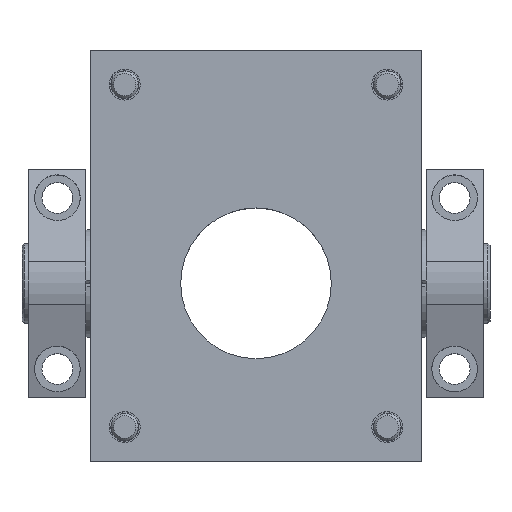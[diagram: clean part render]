
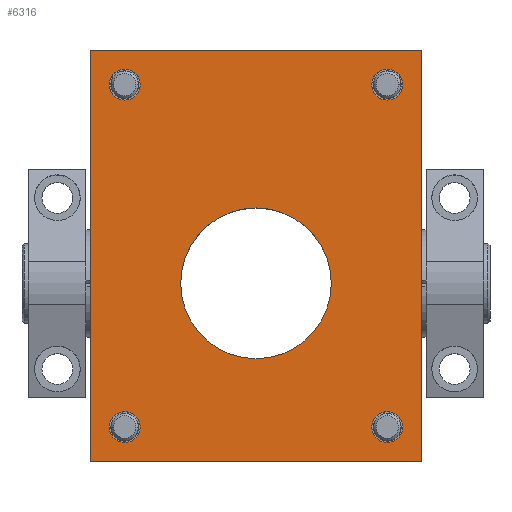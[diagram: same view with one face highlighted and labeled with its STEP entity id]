
A CAD part, top view. The second image highlights one B-rep face of the part: STEP entity #6316.
In plain terms, the highlighted planar face has unit normal (0, 0, 1).
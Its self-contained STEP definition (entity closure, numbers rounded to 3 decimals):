
#40 = CARTESIAN_POINT ( 'NONE',  ( 72.5, -78., -49.5 ) ) ;
#84 = DIRECTION ( 'NONE',  ( 0., 0., -1. ) ) ;
#94 = DIRECTION ( 'NONE',  ( 0., 1., 0. ) ) ;
#119 = EDGE_CURVE ( 'NONE', #1418, #5590, #2246, .T. ) ;
#144 = CARTESIAN_POINT ( 'NONE',  ( -57.5, -63., -49.5 ) ) ;
#165 = CARTESIAN_POINT ( 'NONE',  ( -72.5, 102., -49.5 ) ) ;
#195 = CARTESIAN_POINT ( 'NONE',  ( -57.5, -69.75, -49.5 ) ) ;
#223 = CARTESIAN_POINT ( 'NONE',  ( 72.5, 102., -49.5 ) ) ;
#229 = ORIENTED_EDGE ( 'NONE', *, *, #1915, .F. ) ;
#330 = ORIENTED_EDGE ( 'NONE', *, *, #1268, .T. ) ;
#356 = VERTEX_POINT ( 'NONE', #1001 ) ;
#587 = CIRCLE ( 'NONE', #3054, 6.75 ) ;
#590 = FACE_OUTER_BOUND ( 'NONE', #3467, .T. ) ;
#701 = VERTEX_POINT ( 'NONE', #4704 ) ;
#702 = EDGE_CURVE ( 'NONE', #1250, #5243, #4400, .T. ) ;
#739 = CARTESIAN_POINT ( 'NONE',  ( -72.5, -78., -49.5 ) ) ;
#830 = CARTESIAN_POINT ( 'NONE',  ( 57.5, 93.75, -49.5 ) ) ;
#883 = CIRCLE ( 'NONE', #4195, 6.75 ) ;
#916 = DIRECTION ( 'NONE',  ( 0., 0., -1. ) ) ;
#931 = ORIENTED_EDGE ( 'NONE', *, *, #119, .F. ) ;
#1001 = CARTESIAN_POINT ( 'NONE',  ( 57.5, -56.25, -49.5 ) ) ;
#1007 = CIRCLE ( 'NONE', #5391, 6.75 ) ;
#1089 = EDGE_CURVE ( 'NONE', #5590, #5070, #1168, .T. ) ;
#1163 = EDGE_CURVE ( 'NONE', #4902, #5089, #6229, .T. ) ;
#1168 = LINE ( 'NONE', #165, #2278 ) ;
#1206 = VECTOR ( 'NONE', #5058, 1000. ) ;
#1250 = VERTEX_POINT ( 'NONE', #195 ) ;
#1268 = EDGE_CURVE ( 'NONE', #5089, #4902, #5484, .T. ) ;
#1272 = ORIENTED_EDGE ( 'NONE', *, *, #1680, .T. ) ;
#1363 = ORIENTED_EDGE ( 'NONE', *, *, #5066, .T. ) ;
#1418 = VERTEX_POINT ( 'NONE', #40 ) ;
#1467 = LINE ( 'NONE', #5121, #1206 ) ;
#1518 = AXIS2_PLACEMENT_3D ( 'NONE', #4128, #2006, #5676 ) ;
#1522 = CARTESIAN_POINT ( 'NONE',  ( -57.5, 93.75, -49.5 ) ) ;
#1524 = AXIS2_PLACEMENT_3D ( 'NONE', #2702, #3621, #6208 ) ;
#1555 = DIRECTION ( 'NONE',  ( 0., 1., 0. ) ) ;
#1569 = CARTESIAN_POINT ( 'NONE',  ( 0., 33., -49.5 ) ) ;
#1597 = FACE_BOUND ( 'NONE', #2815, .T. ) ;
#1680 = EDGE_CURVE ( 'NONE', #6254, #5891, #2494, .T. ) ;
#1684 = CARTESIAN_POINT ( 'NONE',  ( 57.5, -69.75, -49.5 ) ) ;
#1693 = CARTESIAN_POINT ( 'NONE',  ( -72.5, 102., -49.5 ) ) ;
#1718 = EDGE_CURVE ( 'NONE', #701, #3761, #883, .T. ) ;
#1721 = EDGE_LOOP ( 'NONE', ( #2116, #330 ) ) ;
#1739 = CARTESIAN_POINT ( 'NONE',  ( 57.5, 87., -49.5 ) ) ;
#1835 = CIRCLE ( 'NONE', #1518, 6.75 ) ;
#1870 = CARTESIAN_POINT ( 'NONE',  ( -57.5, 87., -49.5 ) ) ;
#1915 = EDGE_CURVE ( 'NONE', #2664, #1418, #1467, .T. ) ;
#2006 = DIRECTION ( 'NONE',  ( 0., 0., -1. ) ) ;
#2116 = ORIENTED_EDGE ( 'NONE', *, *, #1163, .T. ) ;
#2246 = LINE ( 'NONE', #6268, #4937 ) ;
#2278 = VECTOR ( 'NONE', #94, 1000. ) ;
#2474 = CARTESIAN_POINT ( 'NONE',  ( 72.5, 102., -49.5 ) ) ;
#2494 = CIRCLE ( 'NONE', #2610, 6.75 ) ;
#2547 = ORIENTED_EDGE ( 'NONE', *, *, #1718, .T. ) ;
#2605 = AXIS2_PLACEMENT_3D ( 'NONE', #2821, #4899, #4868 ) ;
#2610 = AXIS2_PLACEMENT_3D ( 'NONE', #1739, #84, #4818 ) ;
#2611 = FACE_BOUND ( 'NONE', #5069, .T. ) ;
#2648 = DIRECTION ( 'NONE',  ( 0., 0., 1. ) ) ;
#2664 = VERTEX_POINT ( 'NONE', #2474 ) ;
#2702 = CARTESIAN_POINT ( 'NONE',  ( -57.5, -63., -49.5 ) ) ;
#2815 = EDGE_LOOP ( 'NONE', ( #6359, #1272 ) ) ;
#2821 = CARTESIAN_POINT ( 'NONE',  ( 0., 0., -49.5 ) ) ;
#2859 = EDGE_LOOP ( 'NONE', ( #5662, #6381 ) ) ;
#2908 = DIRECTION ( 'NONE',  ( 0., 1., 0. ) ) ;
#3054 = AXIS2_PLACEMENT_3D ( 'NONE', #6372, #3856, #4329 ) ;
#3107 = FACE_BOUND ( 'NONE', #3646, .T. ) ;
#3150 = AXIS2_PLACEMENT_3D ( 'NONE', #5719, #2648, #4684 ) ;
#3161 = AXIS2_PLACEMENT_3D ( 'NONE', #5508, #916, #4978 ) ;
#3184 = EDGE_CURVE ( 'NONE', #5070, #2664, #3339, .T. ) ;
#3217 = CARTESIAN_POINT ( 'NONE',  ( 0., 0., -49.5 ) ) ;
#3268 = CARTESIAN_POINT ( 'NONE',  ( 0., -33., -49.5 ) ) ;
#3339 = LINE ( 'NONE', #223, #4151 ) ;
#3349 = DIRECTION ( 'NONE',  ( 0., 1., 0. ) ) ;
#3467 = EDGE_LOOP ( 'NONE', ( #3841, #3532, #931, #229 ) ) ;
#3532 = ORIENTED_EDGE ( 'NONE', *, *, #1089, .F. ) ;
#3621 = DIRECTION ( 'NONE',  ( 0., 0., -1. ) ) ;
#3630 = CARTESIAN_POINT ( 'NONE',  ( 57.5, 80.25, -49.5 ) ) ;
#3646 = EDGE_LOOP ( 'NONE', ( #5631, #2547 ) ) ;
#3667 = PLANE ( 'NONE',  #3150 ) ;
#3761 = VERTEX_POINT ( 'NONE', #1522 ) ;
#3833 = DIRECTION ( 'NONE',  ( 0., 0., -1. ) ) ;
#3839 = DIRECTION ( 'NONE',  ( -1., 0., 0. ) ) ;
#3841 = ORIENTED_EDGE ( 'NONE', *, *, #3184, .F. ) ;
#3856 = DIRECTION ( 'NONE',  ( 0., 0., -1. ) ) ;
#3895 = ORIENTED_EDGE ( 'NONE', *, *, #702, .T. ) ;
#4083 = DIRECTION ( 'NONE',  ( 0., 0., -1. ) ) ;
#4128 = CARTESIAN_POINT ( 'NONE',  ( 57.5, -63., -49.5 ) ) ;
#4131 = FACE_BOUND ( 'NONE', #2859, .T. ) ;
#4151 = VECTOR ( 'NONE', #4307, 1000. ) ;
#4195 = AXIS2_PLACEMENT_3D ( 'NONE', #1870, #3833, #2908 ) ;
#4231 = DIRECTION ( 'NONE',  ( 0., 1., 0. ) ) ;
#4307 = DIRECTION ( 'NONE',  ( 1., 0., 0. ) ) ;
#4329 = DIRECTION ( 'NONE',  ( 0., 1., 0. ) ) ;
#4400 = CIRCLE ( 'NONE', #1524, 6.75 ) ;
#4420 = CARTESIAN_POINT ( 'NONE',  ( -57.5, 87., -49.5 ) ) ;
#4684 = DIRECTION ( 'NONE',  ( 0., -1., 0. ) ) ;
#4704 = CARTESIAN_POINT ( 'NONE',  ( -57.5, 80.25, -49.5 ) ) ;
#4761 = CIRCLE ( 'NONE', #5939, 6.75 ) ;
#4818 = DIRECTION ( 'NONE',  ( 0., 1., 0. ) ) ;
#4868 = DIRECTION ( 'NONE',  ( 0., 1., 0. ) ) ;
#4890 = EDGE_CURVE ( 'NONE', #356, #5444, #1835, .T. ) ;
#4899 = DIRECTION ( 'NONE',  ( 0., 0., -1. ) ) ;
#4902 = VERTEX_POINT ( 'NONE', #1569 ) ;
#4937 = VECTOR ( 'NONE', #3839, 1000. ) ;
#4978 = DIRECTION ( 'NONE',  ( 0., 1., 0. ) ) ;
#5058 = DIRECTION ( 'NONE',  ( 0., -1., 0. ) ) ;
#5066 = EDGE_CURVE ( 'NONE', #5243, #1250, #4761, .T. ) ;
#5069 = EDGE_LOOP ( 'NONE', ( #1363, #3895 ) ) ;
#5070 = VERTEX_POINT ( 'NONE', #1693 ) ;
#5089 = VERTEX_POINT ( 'NONE', #3268 ) ;
#5121 = CARTESIAN_POINT ( 'NONE',  ( 72.5, -78., -49.5 ) ) ;
#5149 = EDGE_CURVE ( 'NONE', #5891, #6254, #6567, .T. ) ;
#5167 = AXIS2_PLACEMENT_3D ( 'NONE', #3217, #4083, #1555 ) ;
#5222 = EDGE_CURVE ( 'NONE', #5444, #356, #587, .T. ) ;
#5243 = VERTEX_POINT ( 'NONE', #6433 ) ;
#5391 = AXIS2_PLACEMENT_3D ( 'NONE', #4420, #6424, #3349 ) ;
#5444 = VERTEX_POINT ( 'NONE', #1684 ) ;
#5484 = CIRCLE ( 'NONE', #2605, 33. ) ;
#5508 = CARTESIAN_POINT ( 'NONE',  ( 57.5, 87., -49.5 ) ) ;
#5590 = VERTEX_POINT ( 'NONE', #739 ) ;
#5631 = ORIENTED_EDGE ( 'NONE', *, *, #5691, .T. ) ;
#5662 = ORIENTED_EDGE ( 'NONE', *, *, #4890, .T. ) ;
#5676 = DIRECTION ( 'NONE',  ( 0., 1., 0. ) ) ;
#5691 = EDGE_CURVE ( 'NONE', #3761, #701, #1007, .T. ) ;
#5719 = CARTESIAN_POINT ( 'NONE',  ( 0., 12., -49.5 ) ) ;
#5814 = FACE_BOUND ( 'NONE', #1721, .T. ) ;
#5891 = VERTEX_POINT ( 'NONE', #830 ) ;
#5939 = AXIS2_PLACEMENT_3D ( 'NONE', #144, #6311, #4231 ) ;
#6208 = DIRECTION ( 'NONE',  ( 0., 1., 0. ) ) ;
#6229 = CIRCLE ( 'NONE', #5167, 33. ) ;
#6254 = VERTEX_POINT ( 'NONE', #3630 ) ;
#6268 = CARTESIAN_POINT ( 'NONE',  ( -72.5, -78., -49.5 ) ) ;
#6311 = DIRECTION ( 'NONE',  ( 0., 0., -1. ) ) ;
#6316 = ADVANCED_FACE ( 'NONE', ( #5814, #3107, #4131, #2611, #1597, #590 ), #3667, .T. ) ;
#6359 = ORIENTED_EDGE ( 'NONE', *, *, #5149, .T. ) ;
#6372 = CARTESIAN_POINT ( 'NONE',  ( 57.5, -63., -49.5 ) ) ;
#6381 = ORIENTED_EDGE ( 'NONE', *, *, #5222, .T. ) ;
#6424 = DIRECTION ( 'NONE',  ( 0., 0., -1. ) ) ;
#6433 = CARTESIAN_POINT ( 'NONE',  ( -57.5, -56.25, -49.5 ) ) ;
#6567 = CIRCLE ( 'NONE', #3161, 6.75 ) ;
